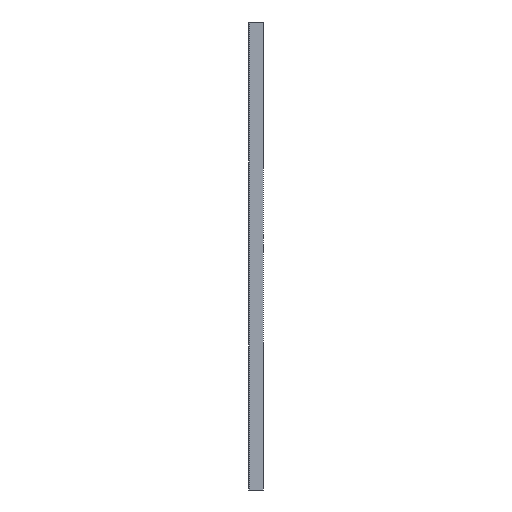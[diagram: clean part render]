
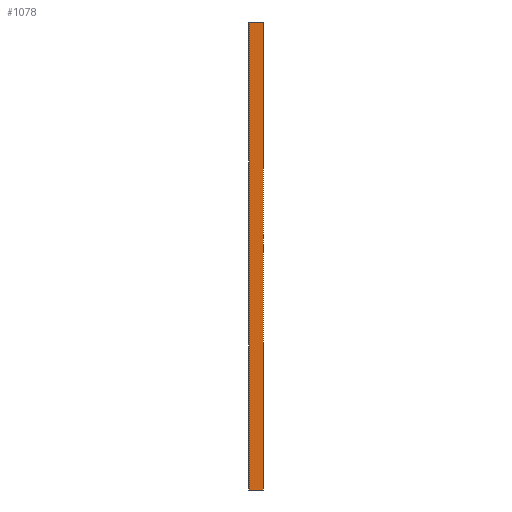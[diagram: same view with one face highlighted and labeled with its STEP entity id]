
A CAD part, left-side view. The second image highlights one B-rep face of the part: STEP entity #1078.
In plain terms, the highlighted planar face has unit normal (-1, 0, 0).
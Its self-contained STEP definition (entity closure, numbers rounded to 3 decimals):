
#20 = EDGE_CURVE ( 'NONE', #357, #1114, #815, .T. ) ;
#209 = DIRECTION ( 'NONE',  ( -1., 0., 0. ) ) ;
#223 = VECTOR ( 'NONE', #520, 1000. ) ;
#229 = ORIENTED_EDGE ( 'NONE', *, *, #968, .F. ) ;
#232 = CARTESIAN_POINT ( 'NONE',  ( -328., 0., -494. ) ) ;
#234 = CARTESIAN_POINT ( 'NONE',  ( -328., -17., -494. ) ) ;
#247 = EDGE_CURVE ( 'NONE', #718, #519, #251, .T. ) ;
#251 = LINE ( 'NONE', #234, #339 ) ;
#265 = ORIENTED_EDGE ( 'NONE', *, *, #247, .F. ) ;
#287 = FACE_OUTER_BOUND ( 'NONE', #536, .T. ) ;
#339 = VECTOR ( 'NONE', #768, 1000. ) ;
#357 = VERTEX_POINT ( 'NONE', #962 ) ;
#397 = LINE ( 'NONE', #602, #223 ) ;
#481 = CARTESIAN_POINT ( 'NONE',  ( -328., 0., -494. ) ) ;
#519 = VERTEX_POINT ( 'NONE', #232 ) ;
#520 = DIRECTION ( 'NONE',  ( 0., 0., 1. ) ) ;
#529 = DIRECTION ( 'NONE',  ( 0., 0., 1. ) ) ;
#536 = EDGE_LOOP ( 'NONE', ( #229, #265, #1019, #612 ) ) ;
#537 = DIRECTION ( 'NONE',  ( 0., 1., 0. ) ) ;
#571 = EDGE_CURVE ( 'NONE', #718, #357, #397, .T. ) ;
#602 = CARTESIAN_POINT ( 'NONE',  ( -328., -17., -494. ) ) ;
#612 = ORIENTED_EDGE ( 'NONE', *, *, #20, .T. ) ;
#625 = CARTESIAN_POINT ( 'NONE',  ( -328., -17., 40. ) ) ;
#718 = VERTEX_POINT ( 'NONE', #733 ) ;
#733 = CARTESIAN_POINT ( 'NONE',  ( -328., -17., -494. ) ) ;
#762 = VECTOR ( 'NONE', #529, 1000. ) ;
#768 = DIRECTION ( 'NONE',  ( 0., 1., 0. ) ) ;
#808 = CARTESIAN_POINT ( 'NONE',  ( -328., -17., -494. ) ) ;
#815 = LINE ( 'NONE', #625, #873 ) ;
#816 = DIRECTION ( 'NONE',  ( 0., 0., 1. ) ) ;
#873 = VECTOR ( 'NONE', #537, 1000. ) ;
#916 = LINE ( 'NONE', #481, #762 ) ;
#945 = AXIS2_PLACEMENT_3D ( 'NONE', #808, #209, #816 ) ;
#962 = CARTESIAN_POINT ( 'NONE',  ( -328., -17., 40. ) ) ;
#968 = EDGE_CURVE ( 'NONE', #519, #1114, #916, .T. ) ;
#973 = CARTESIAN_POINT ( 'NONE',  ( -328., 0., 40. ) ) ;
#1019 = ORIENTED_EDGE ( 'NONE', *, *, #571, .T. ) ;
#1078 = ADVANCED_FACE ( 'NONE', ( #287 ), #1079, .T. ) ;
#1079 = PLANE ( 'NONE',  #945 ) ;
#1114 = VERTEX_POINT ( 'NONE', #973 ) ;
